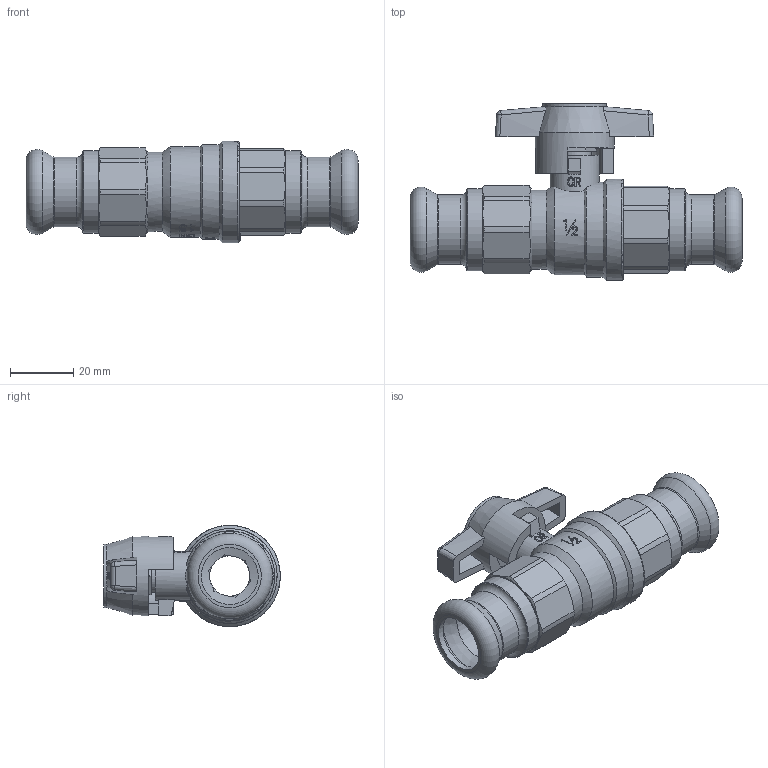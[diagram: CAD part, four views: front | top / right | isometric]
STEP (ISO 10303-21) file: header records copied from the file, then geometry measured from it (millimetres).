
FILE_DESCRIPTION((''),'2;1');
FILE_NAME('P:\Fastrack\53972_CRANE 3D\Press Fit\D171A\THandle\18MM\D171ATH-PF_18MM.stp','2011-12-07T08:58:42',('dcole'),(''),'Autodesk Inventor 2008','Autodesk Inventor 2008','');
FILE_SCHEMA(('AUTOMOTIVE_DESIGN { 1 0 10303 214 1 1 1 1 }'));
Length unit declared in the file: millimetre
Products named in the file (1): D171ATH-PF_18MM
Bounding box: 104.9 x 55.8 x 32 mm (x, y, z)
Volume: 41599.4 mm3; surface area: 28776.7 mm2
Topology: 1 solids, 11 shells, 739 faces, 2026 edges, 1372 vertices
Faces by surface type: plane 375, bspline 134, cylinder 111, cone 85, torus 27, sphere 7
Full cylindrical faces by diameter (mm): 2 x2, 8 x1, 8.1 x2, 8.3 x1, 9 x1, 9.5 x1, 10.5 x1, 10.6 x1, 10.75 x1, 13.5 x1, 14.8 x1, 15 x4, 15.5 x1, 18 x5, 18.1 x2, 18.631 x2, 20 x1, 20.2 x2, 21 x4, 22 x2, 22.1 x2, 25 x2, 25.5 x1, 26 x2, 27 x1, 27.2 x1, 30 x1, 32 x1
Entity records: 43817 total; most frequent: CARTESIAN_POINT 26530, ORIENTED_EDGE 3690, DIRECTION 3018, EDGE_CURVE 1845, VERTEX_POINT 1310, AXIS2_PLACEMENT_3D 1058, EDGE_LOOP 956, VECTOR 902
